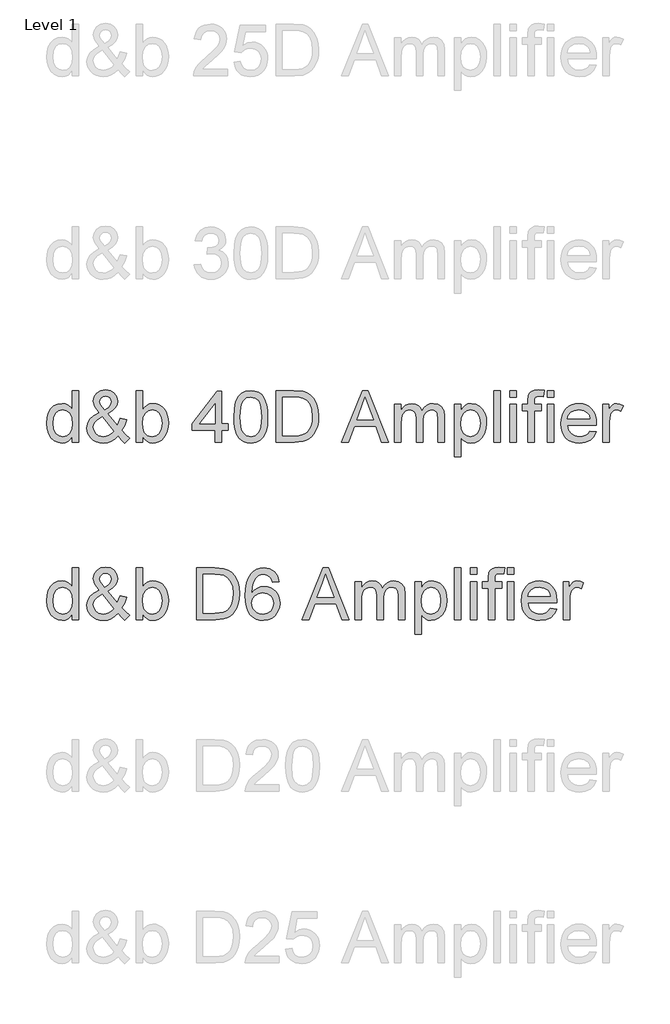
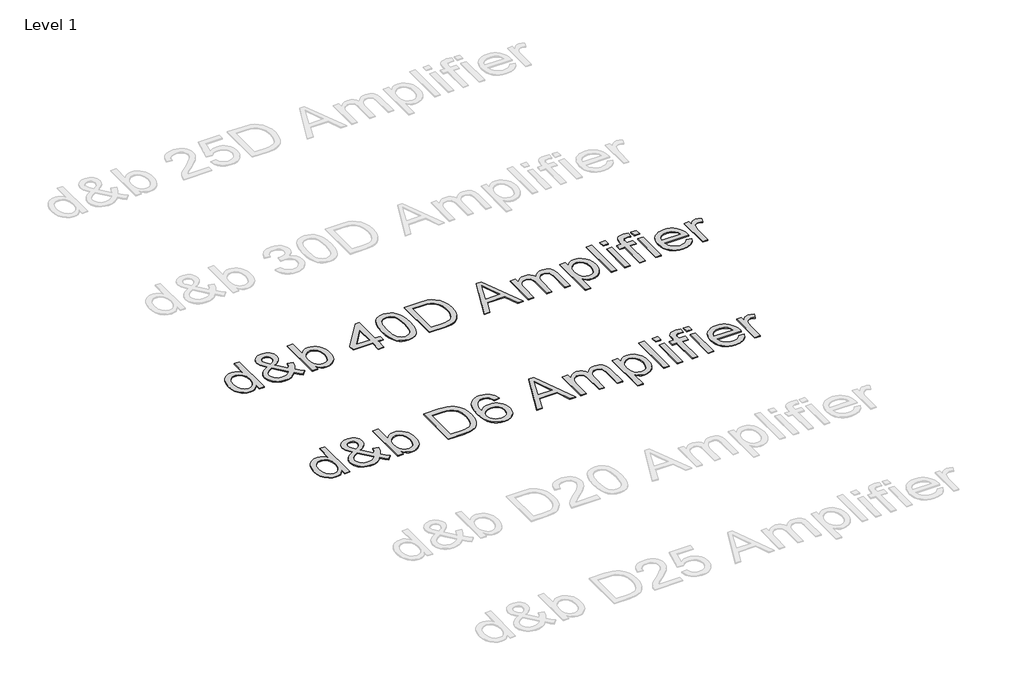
# One storey, part 8 of 14: 2 proxies.
"""IFC4 building model written with IfcOpenShell, lengths in millimetres."""

from ifc_helpers import new_model, si_unit, origin, origin_with_axes, place, context, project, spatial, polyline, outline, extrude, element, save

model = new_model("IFC4")

# Units and contexts
model_context = context("Model", 3, world=origin())
ifc_project = project(units=[si_unit("LENGTHUNIT", "METRE", prefix="MILLI")], contexts=[model_context])

# Site, building, storey
site = spatial("IfcSite", under=ifc_project)
building = spatial("IfcBuilding", under=site)
storey = spatial("IfcBuildingStorey", under=building, Name="Level 1", Elevation=0.0)

# Proxies
placement = place(None, origin())
element("IfcBuildingElementProxy", 1, Name="300mm Arial", ObjectType="300mm Arial", at=placement, inside=storey, context=model_context, shape_type="SweptSolid", body=[
    extrude(outline(polyline([(-19191.0990778, 11455.3155155), (-19191.0990778, 11490.8529162), (-19202.3700624, 11473.2451642), (-19216.0230829, 11460.6681985), (-19232.0581394, 11453.1220191), (-19250.4752318, 11450.6066259), (-19274.8290199, 11454.2486577), (-19297.1226688, 11465.1747529), (-19315.9950151, 11482.6215566), (-19330.0848956, 11505.8257134), (-19338.8588811, 11533.8491244), (-19341.783543, 11565.7536904), (-19339.0888074, 11597.2627833), (-19331.0046005, 11625.7184556), (-19317.5401195, 11649.5020266), (-19298.7045614, 11666.9948155), (-19275.9234688, 11677.7553638), (-19250.6223846, 11681.3422133), (-19232.1914966, 11678.7762364), (-19215.8943242, 11671.0783056), (-19202.0803553, 11659.2784906), (-19191.0990778, 11644.406861), (-19191.0990778, 11756.6844459), (-19153.4279615, 11756.6844459), (-19153.4279615, 11455.3155155), (-19191.0990778, 11455.3155155)]), holes=[polyline([(-19304.1124267, 11565.9008432), (-19299.8633896, 11531.8257734), (-19287.1162785, 11507.591547), (-19268.5934201, 11493.1061934), (-19247.017141, 11488.2777422), (-19225.4500591, 11492.8854642), (-19207.3962502, 11506.7086302), (-19195.1733709, 11530.0047575), (-19191.0990778, 11563.0313636), (-19195.2469473, 11599.1389815), (-19207.6905558, 11624.1733512), (-19226.2042172, 11638.7966606), (-19248.5622454, 11643.671097), (-19270.3592536, 11638.9897986), (-19288.2199245, 11624.9459034), (-19300.1393011, 11600.8220416), (-19304.1124267, 11565.9008432)])]), origin_with_axes(), (0.0, 0.0, 1.0), 5.0),
    extrude(outline(polyline([(-18924.0903257, 11492.5451734), (-18943.2385835, 11474.1970589), (-18964.0423104, 11461.0912628), (-18986.5382944, 11453.2277851), (-19010.7633237, 11450.6066259), (-19032.744273, 11452.5472034), (-19052.3339892, 11458.368936), (-19069.5324725, 11468.0718236), (-19084.3397228, 11481.6558663), (-19100.8392303, 11508.4560697), (-19106.3390661, 11538.2361172), (-19101.9152851, 11564.6316503), (-19088.6439421, 11588.3416449), (-19066.5802195, 11609.3477068), (-19035.7792994, 11627.631442), (-19062.0828621, 11665.7440167), (-19068.6679498, 11693.9973539), (-19063.4808136, 11719.4363939), (-19047.9194053, 11741.3069785), (-19024.5037163, 11756.3717462), (-18995.7537383, 11761.3933354), (-18968.401712, 11756.5924754), (-18946.5311274, 11742.1898953), (-18932.1837296, 11721.0550747), (-18927.4012636, 11696.0574931), (-18930.9421278, 11675.0698253), (-18941.5647204, 11655.66405), (-18959.2690415, 11637.8401674), (-18984.0550909, 11621.5981773), (-18929.5349792, 11553.687161), (-18920.2459588, 11573.0929362), (-18913.274595, 11595.4049792), (-18875.6034787, 11587.2379989), (-18887.1917616, 11552.3443917), (-18902.2381352, 11525.2130945), (-18880.827403, 11500.2339071), (-18856.7679206, 11479.5957271), (-18885.0212578, 11450.6066259), (-18904.243092, 11468.1913853), (-18924.0903257, 11492.5451734)]), holes=[polyline([(-18949.3270305, 11519.6948646), (-19016.5758593, 11603.6455359), (-19042.2632196, 11587.256393), (-19057.9625837, 11572.0812607), (-19065.9916083, 11557.5867101), (-19068.6679498, 11543.2393123), (-19065.0075239, 11525.4706119), (-19054.0262464, 11507.039724), (-19036.3311224, 11492.9682377), (-19012.5291573, 11488.2777422), (-18995.4870239, 11490.4666401), (-18977.9114616, 11497.0333337), (-18961.8442154, 11507.0765122), (-18949.3270305, 11519.6948646)]), polyline([(-19003.1113782, 11645.3633542), (-18983.4112974, 11657.862145), (-18972.1357142, 11668.7238609), (-18966.8382135, 11679.2912712), (-18965.0723799, 11690.9071452), (-18967.3992336, 11704.0681236), (-18974.3797944, 11714.5619575), (-18984.8552342, 11721.4321537), (-18997.6667247, 11723.7222191), (-19010.7541267, 11721.4505478), (-19021.4686898, 11714.6355339), (-19028.6147976, 11704.5463701), (-19030.9968335, 11692.4522496), (-19027.7594719, 11678.6566747), (-19017.9738108, 11663.3159955), (-19003.1113782, 11645.3633542)])]), origin_with_axes(), (0.0, 0.0, 1.0), 5.0),
    extrude(outline(polyline([(-18781.4256879, 11455.3155155), (-18819.0968043, 11455.3155155), (-18819.0968043, 11756.6844459), (-18781.4256879, 11756.6844459), (-18781.4256879, 11644.9218958), (-18769.0372618, 11660.8557847), (-18755.0485489, 11672.2371339), (-18739.4595493, 11679.0659435), (-18722.2702631, 11681.3422133), (-18702.8644879, 11679.2912712), (-18684.5255704, 11673.1384448), (-18668.3019744, 11663.2700103), (-18655.2421636, 11650.0722437), (-18645.0058471, 11633.6739038), (-18637.252734, 11614.2037492), (-18632.3691005, 11592.4711203), (-18630.7412227, 11569.2853576), (-18632.4265821, 11542.5311395), (-18637.4826603, 11518.9958888), (-18645.9094572, 11498.6796056), (-18657.706973, 11481.5822899), (-18671.8681305, 11468.0304369), (-18687.3858529, 11458.3505419), (-18704.2601402, 11452.5426049), (-18722.4909923, 11450.6066259), (-18740.2458971, 11453.103625), (-18755.986648, 11460.5946221), (-18769.7132449, 11473.0796173), (-18781.4256879, 11490.5586106), (-18781.4256879, 11455.3155155)]), holes=[polyline([(-18781.4256879, 11567.519524), (-18778.850514, 11536.1024016), (-18771.1249921, 11514.8388223), (-18761.9969201, 11503.2183498), (-18751.388123, 11494.9180122), (-18739.298601, 11489.9378097), (-18725.7283539, 11488.2777422), (-18703.986528, 11493.1705728), (-18685.4084872, 11507.8490644), (-18672.6613761, 11532.2212466), (-18668.412339, 11566.1951488), (-18672.4866321, 11600.6656918), (-18684.7095114, 11624.7619624), (-18702.708138, 11638.9438134), (-18724.1096731, 11643.671097), (-18745.851499, 11638.7782665), (-18764.4295398, 11624.0997748), (-18777.1766509, 11600.1690511), (-18781.4256879, 11567.519524)])]), origin_with_axes(), (0.0, 0.0, 1.0), 5.0),
    extrude(outline(polyline([(-18465.9300889, 11455.3155155), (-18465.9300889, 11756.6844459), (-18361.966637, 11756.6844459), (-18308.1822893, 11752.3434384), (-18284.1595951, 11743.974123), (-18263.8892971, 11730.7855534), (-18243.0487821, 11707.829717), (-18228.2047436, 11679.2820741), (-18219.3203934, 11645.694448), (-18216.3589434, 11607.6186615), (-18218.3639002, 11575.272637), (-18224.3787708, 11546.8077677), (-18233.5390325, 11522.5735412), (-18244.9801626, 11502.9194456), (-18258.150338, 11487.4040225), (-18272.4977358, 11475.5858134), (-18288.9696522, 11466.8210249), (-18308.5133831, 11460.4658634), (-18356.9634419, 11455.3155155), (-18465.9300889, 11455.3155155)]), holes=[polyline([(-18428.2589726, 11492.9866318), (-18361.598755, 11492.9866318), (-18334.0259995, 11494.3477951), (-18313.1119081, 11498.4312853), (-18297.3297705, 11504.9979789), (-18285.1528765, 11513.8087527), (-18272.0654745, 11530.1151221), (-18262.2338282, 11551.2223516), (-18256.0810018, 11577.2224116), (-18254.0300597, 11608.2072727), (-18258.0491705, 11649.2629033), (-18270.1065028, 11679.5763797), (-18287.9211885, 11700.3985006), (-18309.2123589, 11712.9800649), (-18330.8806085, 11717.5050134), (-18362.6288246, 11719.0133296), (-18428.2589726, 11719.0133296), (-18428.2589726, 11492.9866318)])]), origin_with_axes(), (0.0, 0.0, 1.0), 5.0),
    extrude(outline(polyline([(-17985.623356, 11676.6333238), (-18023.2944723, 11671.9244342), (-18029.3645252, 11690.5944455), (-18037.5682937, 11703.3415566), (-18054.6564124, 11715.0953864), (-18075.3129864, 11719.0133296), (-18092.8241694, 11716.7324612), (-18109.3052828, 11709.8898561), (-18123.4595425, 11695.478079), (-18135.0202342, 11675.6400424), (-18142.8285296, 11647.5798432), (-18145.7256003, 11608.5015783), (-18130.6148473, 11626.1323229), (-18112.5058561, 11638.5575373), (-18092.4103021, 11645.9243742), (-18071.3398609, 11648.3799865), (-18053.2400667, 11646.7015249), (-18036.5382241, 11641.6661401), (-18021.2343331, 11633.2738321), (-18007.3283937, 11621.5246009), (-17995.7723005, 11607.1174222), (-17987.5179483, 11590.751272), (-17982.5653369, 11572.4261501), (-17980.9144664, 11552.1420566), (-17984.0230693, 11525.1671093), (-17993.3488779, 11500.1603307), (-18008.11934, 11478.9519337), (-18027.5619034, 11463.3721312), (-18050.7936514, 11453.7980022), (-18076.9316672, 11450.6066259), (-18099.3885637, 11452.7219474), (-18119.670358, 11459.0679118), (-18137.7770499, 11469.6445192), (-18153.7086396, 11484.4517695), (-18166.6971733, 11504.1150621), (-18175.9746973, 11529.2597965), (-18181.5412118, 11559.8859726), (-18183.3967166, 11595.9935904), (-18181.3365774, 11636.4744055), (-18175.1561599, 11671.0231233), (-18164.855464, 11699.639744), (-18150.4344898, 11722.3242676), (-18134.8041035, 11737.3568456), (-18116.6813168, 11748.0944013), (-18096.0661295, 11754.5369348), (-18072.9585416, 11756.6844459), (-18039.9043444, 11751.3685511), (-18013.4352348, 11735.4208666), (-17994.8939823, 11710.0921912), (-17985.623356, 11676.6333238)]), holes=[polyline([(-18145.7256003, 11552.7306678), (-18143.5458995, 11536.0380223), (-18137.006797, 11520.0995348), (-18126.8532539, 11506.3959305), (-18113.8302313, 11496.4079343), (-18098.1124731, 11490.3102903), (-18079.8747231, 11488.2777422), (-18055.0150973, 11492.4899911), (-18035.4713663, 11505.1267376), (-18022.8070286, 11524.9923653), (-18018.5855827, 11550.8912578), (-18022.7518463, 11575.7508836), (-18035.2506371, 11594.7060034), (-18055.1254619, 11606.7081535), (-18081.4198275, 11610.7088702), (-18106.2426651, 11606.7081535), (-18127.0004067, 11594.7060034), (-18141.0443019, 11576.2107361), (-18145.7256003, 11552.7306678)])]), origin_with_axes(), (0.0, 0.0, 1.0), 5.0),
    extrude(outline(polyline([(-17851.1256985, 11455.3155155), (-17730.8282861, 11756.6844459), (-17698.7489761, 11756.6844459), (-17578.5251401, 11455.3155155), (-17618.329972, 11455.3155155), (-17652.7637267, 11549.4933062), (-17776.9606883, 11549.4933062), (-17811.3944431, 11455.3155155), (-17851.1256985, 11455.3155155)]), holes=[polyline([(-17763.1283253, 11587.1644225), (-17666.5225134, 11587.1644225), (-17693.745781, 11661.2558564), (-17714.8622075, 11719.0133296), (-17733.6241893, 11667.7305795), (-17763.1283253, 11587.1644225)])]), origin_with_axes(), (0.0, 0.0, 1.0), 5.0),
    extrude(outline(polyline([(-17542.9877394, 11455.3155155), (-17542.9877394, 11676.6333238), (-17505.3166231, 11676.6333238), (-17505.3166231, 11640.2130062), (-17493.9858576, 11656.94244), (-17479.4177306, 11670.048236), (-17462.1088827, 11678.518719), (-17442.5559547, 11681.3422133), (-17421.6050751, 11678.4635367), (-17404.811262, 11669.8275068), (-17392.266486, 11656.0043409), (-17384.0627175, 11637.5642559), (-17370.331522, 11656.7171122), (-17354.6689461, 11670.3977239), (-17337.0749896, 11678.606091), (-17317.5496527, 11681.3422133), (-17289.2319362, 11676.7896736), (-17268.2902536, 11663.1320545), (-17255.3500044, 11640.0014741), (-17251.036588, 11607.0300503), (-17251.036588, 11455.3155155), (-17288.7077043, 11455.3155155), (-17288.7077043, 11590.8432425), (-17292.2025833, 11622.2971531), (-17297.1138079, 11630.9699711), (-17304.8577239, 11637.7849851), (-17314.8181289, 11642.199569), (-17326.3788206, 11643.671097), (-17346.7870743, 11639.9003065), (-17363.4245375, 11628.5879352), (-17374.4885885, 11608.9614307), (-17378.1766055, 11580.248241), (-17378.1766055, 11455.3155155), (-17415.8477218, 11455.3155155), (-17415.8477218, 11595.0370972), (-17418.0274227, 11616.3374648), (-17424.5665251, 11631.5309912), (-17436.0720345, 11640.6360705), (-17453.1509562, 11643.671097), (-17467.6639009, 11641.647746), (-17481.0364114, 11635.5776931), (-17492.0728712, 11625.608091), (-17499.577664, 11611.8860926), (-17503.8818833, 11592.8481994), (-17505.3166231, 11566.9309128), (-17505.3166231, 11455.3155155), (-17542.9877394, 11455.3155155)])), origin_with_axes(), (0.0, 0.0, 1.0), 5.0),
    extrude(outline(polyline([(-17194.5299136, 11370.5555038), (-17194.5299136, 11676.6333238), (-17156.8587972, 11676.6333238), (-17156.8587972, 11639.6979714), (-17144.5715386, 11657.9173273), (-17130.812752, 11670.9311528), (-17114.773097, 11678.7394482), (-17095.6432332, 11681.3422133), (-17070.1674051, 11677.7001815), (-17047.8921503, 11666.7740863), (-17029.7555679, 11649.2261151), (-17016.6957571, 11625.7184556), (-17008.8046883, 11597.9617591), (-17006.174332, 11567.6666768), (-17009.1449791, 11535.4494111), (-17018.0569205, 11506.6350538), (-17032.6250475, 11482.6859359), (-17052.5642516, 11465.0643883), (-17075.7868026, 11454.2210665), (-17100.20497, 11450.6066259), (-17117.5230149, 11453.02545), (-17132.9832558, 11460.2819224), (-17146.2178105, 11471.2356088), (-17156.8587972, 11484.7460751), (-17156.8587972, 11370.5555038), (-17194.5299136, 11370.5555038)]), holes=[polyline([(-17156.8587972, 11564.208586), (-17152.7845041, 11530.4370189), (-17140.5616249, 11506.8189948), (-17122.52621, 11492.9130554), (-17101.0143104, 11488.2777422), (-17079.1529228, 11493.0786023), (-17060.6576555, 11507.4811824), (-17048.0485001, 11531.9637292), (-17043.8454483, 11567.0044892), (-17047.9473326, 11600.5921154), (-17060.2529853, 11624.5412332), (-17078.260809, 11638.8886311), (-17099.469206, 11643.671097), (-17120.7603765, 11638.5851284), (-17139.4579789, 11623.3272227), (-17152.5085927, 11598.3756263), (-17156.8587972, 11564.208586)])]), origin_with_axes(), (0.0, 0.0, 1.0), 5.0),
    extrude(outline(polyline([(-16963.7943262, 11455.3155155), (-16963.7943262, 11756.6844459), (-16926.1232099, 11756.6844459), (-16926.1232099, 11455.3155155), (-16963.7943262, 11455.3155155)])), origin_with_axes(), (0.0, 0.0, 1.0), 5.0),
    extrude(outline(polyline([(-16869.6165354, 11719.0133296), (-16869.6165354, 11756.6844459), (-16831.9454191, 11756.6844459), (-16831.9454191, 11719.0133296), (-16869.6165354, 11719.0133296)])), origin_with_axes(), (0.0, 0.0, 1.0), 5.0),
    extrude(outline(polyline([(-16869.6165354, 11455.3155155), (-16869.6165354, 11676.6333238), (-16831.9454191, 11676.6333238), (-16831.9454191, 11455.3155155), (-16869.6165354, 11455.3155155)])), origin_with_axes(), (0.0, 0.0, 1.0), 5.0),
    extrude(outline(polyline([(-16766.0209656, 11455.3155155), (-16766.0209656, 11638.9622075), (-16798.9831923, 11638.9622075), (-16798.9831923, 11676.6333238), (-16766.0209656, 11676.6333238), (-16766.0209656, 11698.9269727), (-16762.04784, 11730.3440951), (-16754.4694709, 11742.870477), (-16742.7708235, 11752.7848968), (-16726.4000747, 11759.2412258), (-16704.8054016, 11761.3933354), (-16670.4452232, 11757.2730571), (-16675.9634531, 11721.9563856), (-16697.6684909, 11723.7222191), (-16711.9882975, 11722.1587207), (-16721.3968796, 11717.4682252), (-16726.6116068, 11708.5102986), (-16728.3498493, 11694.1445067), (-16728.3498493, 11676.6333238), (-16685.9698434, 11676.6333238), (-16685.9698434, 11638.9622075), (-16728.3498493, 11638.9622075), (-16728.3498493, 11455.3155155), (-16766.0209656, 11455.3155155)])), origin_with_axes(), (0.0, 0.0, 1.0), 5.0),
    extrude(outline(polyline([(-16653.0076167, 11719.0133296), (-16653.0076167, 11756.6844459), (-16615.3365003, 11756.6844459), (-16615.3365003, 11719.0133296), (-16653.0076167, 11719.0133296)])), origin_with_axes(), (0.0, 0.0, 1.0), 5.0),
    extrude(outline(polyline([(-16653.0076167, 11455.3155155), (-16653.0076167, 11676.6333238), (-16615.3365003, 11676.6333238), (-16615.3365003, 11455.3155155), (-16653.0076167, 11455.3155155)])), origin_with_axes(), (0.0, 0.0, 1.0), 5.0),
    extrude(outline(polyline([(-16403.8779295, 11521.239969), (-16366.9425772, 11516.5310795), (-16380.2507084, 11488.7008065), (-16401.4866965, 11467.8970797), (-16430.1722951, 11454.9292394), (-16465.8292575, 11450.6066259), (-16489.2035598, 11452.4713278), (-16510.0302792, 11458.0654334), (-16528.3094159, 11467.3889427), (-16544.0409697, 11480.4418557), (-16556.6915118, 11496.860889), (-16565.7276133, 11516.2827591), (-16571.1492742, 11538.707466), (-16572.9564945, 11564.1350096), (-16571.1308801, 11590.4247767), (-16565.6540369, 11613.5967439), (-16556.5259649, 11633.6509111), (-16543.7466641, 11650.5872785), (-16528.056497, 11664.0425625), (-16510.1958261, 11673.6534796), (-16490.1646515, 11679.4200299), (-16467.9629731, 11681.3422133), (-16446.4763653, 11679.4246284), (-16427.0452982, 11673.6718737), (-16409.6697717, 11664.0839492), (-16394.3497858, 11650.6608549), (-16381.8440973, 11633.7612757), (-16372.9114626, 11613.7438967), (-16367.5518818, 11590.6087177), (-16365.7653548, 11564.3557388), (-16365.986084, 11554.2021958), (-16535.2853782, 11554.2021958), (-16528.7646698, 11526.0040408), (-16513.6171287, 11505.2738904), (-16491.7557411, 11492.5267793), (-16465.0934935, 11488.2777422), (-16445.0439248, 11490.2459109), (-16428.1581412, 11496.1504169), (-16414.4361428, 11506.3591423), (-16403.8779295, 11521.239969)]), holes=[polyline([(-16535.2853782, 11591.8733121), (-16403.4364711, 11591.8733121), (-16408.5316368, 11611.775728), (-16418.5196329, 11626.0127612), (-16440.482188, 11639.256513), (-16468.1101259, 11643.671097), (-16493.5031806, 11640.1486269), (-16514.5000455, 11629.5812166), (-16529.0957636, 11613.1093002), (-16535.2853782, 11591.8733121)])]), origin_with_axes(), (0.0, 0.0, 1.0), 5.0),
    extrude(outline(polyline([(-16328.0942385, 11455.3155155), (-16328.0942385, 11676.6333238), (-16295.1320117, 11676.6333238), (-16295.1320117, 11643.8918262), (-16282.9551177, 11662.8745371), (-16271.7347168, 11674.0581498), (-16260.4775278, 11679.5211974), (-16248.1902692, 11681.3422133), (-16229.4282874, 11678.4359455), (-16210.3720001, 11669.7171423), (-16222.9535643, 11635.9455751), (-16236.1973161, 11641.7397165), (-16249.4410679, 11643.671097), (-16260.6890599, 11641.8132929), (-16270.7414355, 11636.2398807), (-16278.8624305, 11627.3739246), (-16284.3162811, 11615.638489), (-16288.8964119, 11594.5956388), (-16290.4231222, 11571.6398023), (-16290.4231222, 11455.3155155), (-16328.0942385, 11455.3155155)])), origin_with_axes(), (0.0, 0.0, 1.0), 5.0),
])
element("IfcBuildingElementProxy", 2, Name="300mm Arial", ObjectType="300mm Arial", at=placement, inside=storey, context=model_context, shape_type="SweptSolid", body=[
    extrude(outline(polyline([(-19191.0990778, 12488.6939123), (-19191.0990778, 12524.231313), (-19202.3700624, 12506.6235611), (-19216.0230829, 12494.0465953), (-19232.0581394, 12486.5004159), (-19250.4752318, 12483.9850228), (-19274.8290199, 12487.6270545), (-19297.1226688, 12498.5531498), (-19315.9950151, 12515.9999534), (-19330.0848956, 12539.2041102), (-19338.8588811, 12567.2275212), (-19341.783543, 12599.1320873), (-19339.0888074, 12630.6411802), (-19331.0046005, 12659.0968525), (-19317.5401195, 12682.8804235), (-19298.7045614, 12700.3732123), (-19275.9234688, 12711.1337607), (-19250.6223846, 12714.7206101), (-19232.1914966, 12712.1546332), (-19215.8943242, 12704.4567025), (-19202.0803553, 12692.6568875), (-19191.0990778, 12677.7852578), (-19191.0990778, 12790.0628428), (-19153.4279615, 12790.0628428), (-19153.4279615, 12488.6939123), (-19191.0990778, 12488.6939123)]), holes=[polyline([(-19304.1124267, 12599.2792401), (-19299.8633896, 12565.2041703), (-19287.1162785, 12540.9699438), (-19268.5934201, 12526.4845903), (-19247.017141, 12521.6561391), (-19225.4500591, 12526.2638611), (-19207.3962502, 12540.087027), (-19195.1733709, 12563.3831544), (-19191.0990778, 12596.4097605), (-19195.2469473, 12632.5173783), (-19207.6905558, 12657.5517481), (-19226.2042172, 12672.1750574), (-19248.5622454, 12677.0494938), (-19270.3592536, 12672.3681955), (-19288.2199245, 12658.3243003), (-19300.1393011, 12634.2004385), (-19304.1124267, 12599.2792401)])]), origin_with_axes(), (0.0, 0.0, 1.0), 5.0),
    extrude(outline(polyline([(-18924.0903257, 12525.9235702), (-18943.2385835, 12507.5754557), (-18964.0423104, 12494.4696596), (-18986.5382944, 12486.606182), (-19010.7633237, 12483.9850228), (-19032.744273, 12485.9256003), (-19052.3339892, 12491.7473329), (-19069.5324725, 12501.4502205), (-19084.3397228, 12515.0342632), (-19100.8392303, 12541.8344665), (-19106.3390661, 12571.614514), (-19101.9152851, 12598.0100472), (-19088.6439421, 12621.7200418), (-19066.5802195, 12642.7261037), (-19035.7792994, 12661.0098389), (-19062.0828621, 12699.1224136), (-19068.6679498, 12727.3757508), (-19063.4808136, 12752.8147907), (-19047.9194053, 12774.6853754), (-19024.5037163, 12789.7501431), (-18995.7537383, 12794.7717323), (-18968.401712, 12789.9708723), (-18946.5311274, 12775.5682922), (-18932.1837296, 12754.4334715), (-18927.4012636, 12729.43589), (-18930.9421278, 12708.4482221), (-18941.5647204, 12689.0424469), (-18959.2690415, 12671.2185642), (-18984.0550909, 12654.9765741), (-18929.5349792, 12587.0655578), (-18920.2459588, 12606.4713331), (-18913.274595, 12628.7833761), (-18875.6034787, 12620.6163958), (-18887.1917616, 12585.7227885), (-18902.2381352, 12558.5914914), (-18880.827403, 12533.6123039), (-18856.7679206, 12512.974124), (-18885.0212578, 12483.9850228), (-18904.243092, 12501.5697821), (-18924.0903257, 12525.9235702)]), holes=[polyline([(-18949.3270305, 12553.0732615), (-19016.5758593, 12637.0239328), (-19042.2632196, 12620.6347899), (-19057.9625837, 12605.4596576), (-19065.9916083, 12590.965107), (-19068.6679498, 12576.6177092), (-19065.0075239, 12558.8490088), (-19054.0262464, 12540.4181208), (-19036.3311224, 12526.3466345), (-19012.5291573, 12521.6561391), (-18995.4870239, 12523.845037), (-18977.9114616, 12530.4117306), (-18961.8442154, 12540.454909), (-18949.3270305, 12553.0732615)]), polyline([(-19003.1113782, 12678.741751), (-18983.4112974, 12691.2405418), (-18972.1357142, 12702.1022577), (-18966.8382135, 12712.669668), (-18965.0723799, 12724.285542), (-18967.3992336, 12737.4465204), (-18974.3797944, 12747.9403543), (-18984.8552342, 12754.8105506), (-18997.6667247, 12757.100616), (-19010.7541267, 12754.8289447), (-19021.4686898, 12748.0139307), (-19028.6147976, 12737.924767), (-19030.9968335, 12725.8306464), (-19027.7594719, 12712.0350716), (-19017.9738108, 12696.6943924), (-19003.1113782, 12678.741751)])]), origin_with_axes(), (0.0, 0.0, 1.0), 5.0),
    extrude(outline(polyline([(-18781.4256879, 12488.6939123), (-18819.0968043, 12488.6939123), (-18819.0968043, 12790.0628428), (-18781.4256879, 12790.0628428), (-18781.4256879, 12678.3002926), (-18769.0372618, 12694.2341815), (-18755.0485489, 12705.6155308), (-18739.4595493, 12712.4443403), (-18722.2702631, 12714.7206101), (-18702.8644879, 12712.669668), (-18684.5255704, 12706.5168417), (-18668.3019744, 12696.6484071), (-18655.2421636, 12683.4506406), (-18645.0058471, 12667.0523006), (-18637.252734, 12647.582146), (-18632.3691005, 12625.8495172), (-18630.7412227, 12602.6637544), (-18632.4265821, 12575.9095363), (-18637.4826603, 12552.3742857), (-18645.9094572, 12532.0580025), (-18657.706973, 12514.9606868), (-18671.8681305, 12501.4088338), (-18687.3858529, 12491.7289388), (-18704.2601402, 12485.9210018), (-18722.4909923, 12483.9850228), (-18740.2458971, 12486.4820218), (-18755.986648, 12493.9730189), (-18769.7132449, 12506.4580142), (-18781.4256879, 12523.9370074), (-18781.4256879, 12488.6939123)]), holes=[polyline([(-18781.4256879, 12600.8979208), (-18778.850514, 12569.4807985), (-18771.1249921, 12548.2172191), (-18761.9969201, 12536.5967466), (-18751.388123, 12528.2964091), (-18739.298601, 12523.3162066), (-18725.7283539, 12521.6561391), (-18703.986528, 12526.5489696), (-18685.4084872, 12541.2274612), (-18672.6613761, 12565.5996434), (-18668.412339, 12599.5735457), (-18672.4866321, 12634.0440886), (-18684.7095114, 12658.1403593), (-18702.708138, 12672.3222102), (-18724.1096731, 12677.0494938), (-18745.851499, 12672.1566633), (-18764.4295398, 12657.4781717), (-18777.1766509, 12633.5474479), (-18781.4256879, 12600.8979208)])]), origin_with_axes(), (0.0, 0.0, 1.0), 5.0),
    extrude(outline(polyline([(-18357.6256295, 12488.6939123), (-18357.6256295, 12559.3272554), (-18494.1834261, 12559.3272554), (-18494.1834261, 12596.9983717), (-18348.2078504, 12785.3539532), (-18319.9545132, 12785.3539532), (-18319.9545132, 12596.9983717), (-18282.2833969, 12596.9983717), (-18282.2833969, 12559.3272554), (-18319.9545132, 12559.3272554), (-18319.9545132, 12488.6939123), (-18357.6256295, 12488.6939123)]), holes=[polyline([(-18357.6256295, 12596.9983717), (-18357.6256295, 12713.396235), (-18447.8302947, 12596.9983717), (-18357.6256295, 12596.9983717)])]), origin_with_axes(), (0.0, 0.0, 1.0), 5.0),
    extrude(outline(polyline([(-18249.3211701, 12636.9503564), (-18246.5528581, 12685.188883), (-18238.2479221, 12723.6601426), (-18224.4891354, 12752.9527465), (-18205.3592717, 12773.6553058), (-18180.7203751, 12785.9609585), (-18150.4344898, 12790.0628428), (-18127.2211359, 12787.6348216), (-18106.4358032, 12780.3507581), (-18089.0533789, 12768.4957608), (-18076.0487504, 12752.3549383), (-18066.2263011, 12732.0662462), (-18058.3904146, 12707.7676404), (-18053.2584608, 12676.9115381), (-18051.5478095, 12636.9503564), (-18054.2885304, 12588.9877412), (-18062.510693, 12550.6084521), (-18076.1867061, 12521.2882571), (-18095.2889787, 12500.5029244), (-18119.9830577, 12488.1144982), (-18150.4344898, 12483.9850228), (-18171.1830343, 12485.7784475), (-18189.5771341, 12491.1587217), (-18205.6167891, 12500.1258453), (-18219.3019993, 12512.6798184), (-18232.4353865, 12535.373539), (-18241.8163774, 12563.6498688), (-18247.4449719, 12597.508808), (-18249.3211701, 12636.9503564)]), holes=[polyline([(-18211.6500538, 12637.0239328), (-18207.2354699, 12577.7673404), (-18201.7172399, 12557.4993417), (-18193.991718, 12543.4715414), (-18174.2732431, 12527.1099897), (-18150.4344898, 12521.6561391), (-18126.5957365, 12527.1283838), (-18106.8772616, 12543.5451178), (-18099.1517397, 12557.5959107), (-18093.6335098, 12577.8593109), (-18089.2189258, 12637.0239328), (-18093.486357, 12694.9469529), (-18098.8206459, 12715.148273), (-18106.2886504, 12729.5094664), (-18125.9703371, 12746.6711614), (-18150.8759482, 12752.3917265), (-18174.4571841, 12747.3517431), (-18193.4031069, 12732.2317931), (-18201.3861462, 12716.5968083), (-18207.0883171, 12695.51717), (-18211.6500538, 12637.0239328)])]), origin_with_axes(), (0.0, 0.0, 1.0), 5.0),
    extrude(outline(polyline([(-18004.4589141, 12488.6939123), (-18004.4589141, 12790.0628428), (-17900.4954623, 12790.0628428), (-17846.7111146, 12785.7218352), (-17822.6884203, 12777.3525198), (-17802.4181224, 12764.1639503), (-17781.5776074, 12741.2081138), (-17766.7335688, 12712.660471), (-17757.8492187, 12679.0728448), (-17754.8877686, 12640.9970583), (-17756.8927255, 12608.6510339), (-17762.9075961, 12580.1861645), (-17772.0678578, 12555.9519381), (-17783.5089878, 12536.2978425), (-17796.6791633, 12520.7824193), (-17811.0265611, 12508.9642102), (-17827.4984774, 12500.1994217), (-17847.0422084, 12493.8442602), (-17895.4922672, 12488.6939123), (-18004.4589141, 12488.6939123)]), holes=[polyline([(-17966.7877978, 12526.3650286), (-17900.1275803, 12526.3650286), (-17872.5548248, 12527.726192), (-17851.6407333, 12531.8096821), (-17835.8585957, 12538.3763758), (-17823.6817017, 12547.1871495), (-17810.5942997, 12563.493519), (-17800.7626534, 12584.6007485), (-17794.609827, 12610.6008085), (-17792.5588849, 12641.5856695), (-17796.5779957, 12682.6413002), (-17808.6353281, 12712.9547766), (-17826.4500137, 12733.7768975), (-17847.7411842, 12746.3584617), (-17869.4094337, 12750.8834103), (-17901.1576499, 12752.3917265), (-17966.7877978, 12752.3917265), (-17966.7877978, 12526.3650286)])]), origin_with_axes(), (0.0, 0.0, 1.0), 5.0),
    extrude(outline(polyline([(-17620.3901112, 12488.6939123), (-17500.0926987, 12790.0628428), (-17468.0133888, 12790.0628428), (-17347.7895527, 12488.6939123), (-17387.5943846, 12488.6939123), (-17422.0281394, 12582.8717031), (-17546.2251009, 12582.8717031), (-17580.6588557, 12488.6939123), (-17620.3901112, 12488.6939123)]), holes=[polyline([(-17532.3927379, 12620.5428194), (-17435.786926, 12620.5428194), (-17463.0101936, 12694.6342532), (-17484.1266202, 12752.3917265), (-17502.8886019, 12701.1089763), (-17532.3927379, 12620.5428194)])]), origin_with_axes(), (0.0, 0.0, 1.0), 5.0),
    extrude(outline(polyline([(-17312.252152, 12488.6939123), (-17312.252152, 12710.0117206), (-17274.5810357, 12710.0117206), (-17274.5810357, 12673.5914031), (-17263.2502702, 12690.3208368), (-17248.6821432, 12703.4266329), (-17231.3732954, 12711.8971158), (-17211.8203673, 12714.7206101), (-17190.8694877, 12711.8419335), (-17174.0756746, 12703.2059037), (-17161.5308986, 12689.3827377), (-17153.3271301, 12670.9426527), (-17139.5959346, 12690.0955091), (-17123.9333587, 12703.7761208), (-17106.3394023, 12711.9844878), (-17086.8140654, 12714.7206101), (-17058.4963488, 12710.1680705), (-17037.5546662, 12696.5104514), (-17024.614417, 12673.3798709), (-17020.3010006, 12640.4084471), (-17020.3010006, 12488.6939123), (-17057.9721169, 12488.6939123), (-17057.9721169, 12624.2216393), (-17061.4669959, 12655.6755499), (-17066.3782205, 12664.348368), (-17074.1221365, 12671.1633819), (-17084.0825415, 12675.5779659), (-17095.6432332, 12677.0494938), (-17116.0514869, 12673.2787034), (-17132.6889502, 12661.966332), (-17143.7530012, 12642.3398276), (-17147.4410182, 12613.6266379), (-17147.4410182, 12488.6939123), (-17185.1121345, 12488.6939123), (-17185.1121345, 12628.4154941), (-17187.2918353, 12649.7158616), (-17193.8309378, 12664.909388), (-17205.3364472, 12674.0144674), (-17222.4153688, 12677.0494938), (-17236.9283135, 12675.0261429), (-17250.300824, 12668.9560899), (-17261.3372839, 12658.9864879), (-17268.8420766, 12645.2644895), (-17273.1462959, 12626.2265962), (-17274.5810357, 12600.3093096), (-17274.5810357, 12488.6939123), (-17312.252152, 12488.6939123)])), origin_with_axes(), (0.0, 0.0, 1.0), 5.0),
    extrude(outline(polyline([(-16963.7943262, 12403.9339006), (-16963.7943262, 12710.0117206), (-16926.1232099, 12710.0117206), (-16926.1232099, 12673.0763683), (-16913.8359512, 12691.2957241), (-16900.0771646, 12704.3095497), (-16884.0375096, 12712.117845), (-16864.9076459, 12714.7206101), (-16839.4318177, 12711.0785784), (-16817.1565629, 12700.1524831), (-16799.0199805, 12682.604512), (-16785.9601697, 12659.0968525), (-16778.0691009, 12631.3401559), (-16775.4387446, 12601.0450736), (-16778.4093918, 12568.8278079), (-16787.3213331, 12540.0134506), (-16801.8894601, 12516.0643328), (-16821.8286642, 12498.4427852), (-16845.0512152, 12487.5994634), (-16869.4693826, 12483.9850228), (-16886.7874275, 12486.4038469), (-16902.2476684, 12493.6603192), (-16915.4822232, 12504.6140057), (-16926.1232099, 12518.1244719), (-16926.1232099, 12403.9339006), (-16963.7943262, 12403.9339006)]), holes=[polyline([(-16926.1232099, 12597.5869829), (-16922.0489168, 12563.8154157), (-16909.8260375, 12540.1973916), (-16891.7906227, 12526.2914522), (-16870.278723, 12521.6561391), (-16848.4173354, 12526.4569991), (-16829.9220681, 12540.8595792), (-16817.3129127, 12565.342126), (-16813.109861, 12600.382886), (-16817.2117452, 12633.9705122), (-16829.5173979, 12657.9196301), (-16847.5252216, 12672.2670279), (-16868.7336186, 12677.0494938), (-16890.0247891, 12671.9635253), (-16908.7223915, 12656.7056195), (-16921.7730053, 12631.7540232), (-16926.1232099, 12597.5869829)])]), origin_with_axes(), (0.0, 0.0, 1.0), 5.0),
    extrude(outline(polyline([(-16733.0587388, 12488.6939123), (-16733.0587388, 12790.0628428), (-16695.3876225, 12790.0628428), (-16695.3876225, 12488.6939123), (-16733.0587388, 12488.6939123)])), origin_with_axes(), (0.0, 0.0, 1.0), 5.0),
    extrude(outline(polyline([(-16638.880948, 12488.6939123), (-16638.880948, 12710.0117206), (-16601.2098317, 12710.0117206), (-16601.2098317, 12488.6939123), (-16638.880948, 12488.6939123)])), origin_with_axes(), (0.0, 0.0, 1.0), 5.0),
    extrude(outline(polyline([(-16638.880948, 12752.3917265), (-16638.880948, 12790.0628428), (-16601.2098317, 12790.0628428), (-16601.2098317, 12752.3917265), (-16638.880948, 12752.3917265)])), origin_with_axes(), (0.0, 0.0, 1.0), 5.0),
    extrude(outline(polyline([(-16535.2853782, 12488.6939123), (-16535.2853782, 12672.3406043), (-16568.247605, 12672.3406043), (-16568.247605, 12710.0117206), (-16535.2853782, 12710.0117206), (-16535.2853782, 12732.3053695), (-16531.3122526, 12763.7224919), (-16523.7338835, 12776.2488738), (-16512.0352361, 12786.1632936), (-16495.6644873, 12792.6196226), (-16474.0698142, 12794.7717323), (-16439.7096358, 12790.651454), (-16445.2278658, 12755.3347824), (-16466.9329035, 12757.100616), (-16481.2527102, 12755.5371175), (-16490.6612922, 12750.8466221), (-16495.8760195, 12741.8886955), (-16497.6142619, 12727.5229036), (-16497.6142619, 12710.0117206), (-16455.234256, 12710.0117206), (-16455.234256, 12672.3406043), (-16497.6142619, 12672.3406043), (-16497.6142619, 12488.6939123), (-16535.2853782, 12488.6939123)])), origin_with_axes(), (0.0, 0.0, 1.0), 5.0),
    extrude(outline(polyline([(-16422.2720293, 12488.6939123), (-16422.2720293, 12710.0117206), (-16384.600913, 12710.0117206), (-16384.600913, 12488.6939123), (-16422.2720293, 12488.6939123)])), origin_with_axes(), (0.0, 0.0, 1.0), 5.0),
    extrude(outline(polyline([(-16422.2720293, 12752.3917265), (-16422.2720293, 12790.0628428), (-16384.600913, 12790.0628428), (-16384.600913, 12752.3917265), (-16422.2720293, 12752.3917265)])), origin_with_axes(), (0.0, 0.0, 1.0), 5.0),
    extrude(outline(polyline([(-16173.1423421, 12554.6183658), (-16136.2069898, 12549.9094763), (-16149.515121, 12522.0792034), (-16170.7511092, 12501.2754765), (-16199.4367077, 12488.3076362), (-16235.0936701, 12483.9850228), (-16258.4679724, 12485.8497246), (-16279.2946919, 12491.4438302), (-16297.5738285, 12500.7673395), (-16313.3053823, 12513.8202526), (-16325.9559244, 12530.2392859), (-16334.9920259, 12549.661156), (-16340.4136868, 12572.0858628), (-16342.2209071, 12597.5134065), (-16340.3952927, 12623.8031736), (-16334.9184495, 12646.9751407), (-16325.7903775, 12667.029308), (-16313.0110767, 12683.9656754), (-16297.3209096, 12697.4209593), (-16279.4602387, 12707.0318764), (-16259.4290641, 12712.7984267), (-16237.2273857, 12714.7206101), (-16215.7407779, 12712.8030252), (-16196.3097108, 12707.0502705), (-16178.9341843, 12697.462346), (-16163.6141985, 12684.0392518), (-16151.1085099, 12667.1396726), (-16142.1758752, 12647.1222935), (-16136.8162944, 12623.9871146), (-16135.0297674, 12597.7341357), (-16135.2504966, 12587.5805926), (-16304.5497908, 12587.5805926), (-16298.0290825, 12559.3824377), (-16282.8815413, 12538.6522873), (-16261.0201537, 12525.9051761), (-16234.3579061, 12521.6561391), (-16214.3083374, 12523.6243078), (-16197.4225538, 12529.5288138), (-16183.7005554, 12539.7375391), (-16173.1423421, 12554.6183658)]), holes=[polyline([(-16304.5497908, 12625.2517089), (-16172.7008837, 12625.2517089), (-16177.7960494, 12645.1541249), (-16187.7840455, 12659.3911581), (-16209.7466007, 12672.6349099), (-16237.3745385, 12677.0494938), (-16262.7675932, 12673.5270237), (-16283.7644581, 12662.9596134), (-16298.3601763, 12646.4876971), (-16304.5497908, 12625.2517089)])]), origin_with_axes(), (0.0, 0.0, 1.0), 5.0),
    extrude(outline(polyline([(-16097.3586511, 12488.6939123), (-16097.3586511, 12710.0117206), (-16064.3964244, 12710.0117206), (-16064.3964244, 12677.270223), (-16052.2195303, 12696.252934), (-16040.9991295, 12707.4365466), (-16029.7419404, 12712.8995943), (-16017.4546818, 12714.7206101), (-15998.6927, 12711.8143424), (-15979.6364127, 12703.0955391), (-15992.2179769, 12669.3239719), (-16005.4617287, 12675.1181134), (-16018.7054806, 12677.0494938), (-16029.9534726, 12675.1916898), (-16040.0058481, 12669.6182775), (-16048.1268431, 12660.7523215), (-16053.5806937, 12649.0168858), (-16058.1608245, 12627.9740357), (-16059.6875348, 12605.0181992), (-16059.6875348, 12488.6939123), (-16097.3586511, 12488.6939123)])), origin_with_axes(), (0.0, 0.0, 1.0), 5.0),
])

save(model, "model.ifc")
